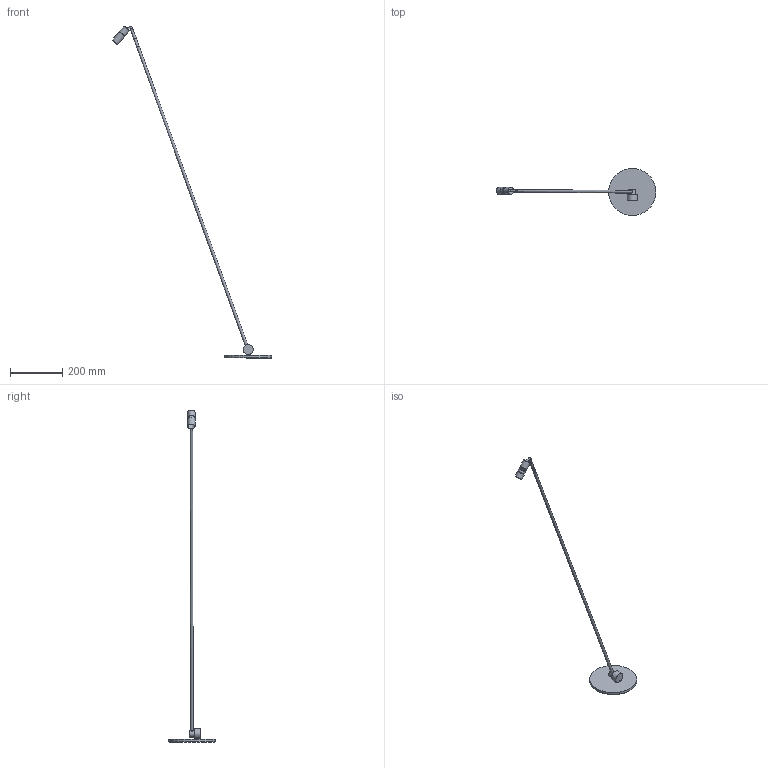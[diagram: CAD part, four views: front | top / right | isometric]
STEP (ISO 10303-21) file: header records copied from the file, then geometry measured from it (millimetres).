
FILE_DESCRIPTION(/* description */ (''),/* implementation_level */ '2;1');
FILE_NAME(/* name */ 'MIA.stp',/* time_stamp */ '2025-10-02T09:56:35+02:00',/* author */ ('n.bisotti'),/* organization */ (''),/* preprocessor_version */ 'ST-DEVELOPER v20.1',/* originating_system */ 'Autodesk Inventor 2026',/* authorisation */ '');
FILE_SCHEMA (('AUTOMOTIVE_DESIGN { 1 0 10303 214 3 1 1 }'));
Length unit declared in the file: millimetre
Products named in the file (1): Parte3
Bounding box: 610.11 x 180 x 1269.05 mm (x, y, z)
Volume: 360844.8 mm3; surface area: 208518.6 mm2
Topology: 15 solids, 15 shells, 162 faces, 334 edges, 224 vertices
Faces by surface type: plane 74, cylinder 67, cone 21
Full cylindrical faces by diameter (mm): 0.5 x4, 1.8 x2, 2 x1, 2.4 x2, 2.459 x1, 3.242 x1, 3.25 x2, 4 x1, 4.4 x2, 4.8 x2, 5.15 x1, 5.6 x2, 6.5 x2, 7.7 x3, 8 x1, 8.917 x1, 9.25 x1, 10 x1, 10.75 x1, 20.5 x3, 22 x3, 22.917 x1, 23.5 x5, 24.5 x1, 26.5 x1, 27 x1, 28 x2, 38 x1, 176 x1, 180 x1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
Entity records: 5215 total; most frequent: CARTESIAN_POINT 1419, DIRECTION 751, ORIENTED_EDGE 662, EDGE_CURVE 331, AXIS2_PLACEMENT_3D 306, VERTEX_POINT 224, EDGE_LOOP 215, FACE_OUTER_BOUND 162
